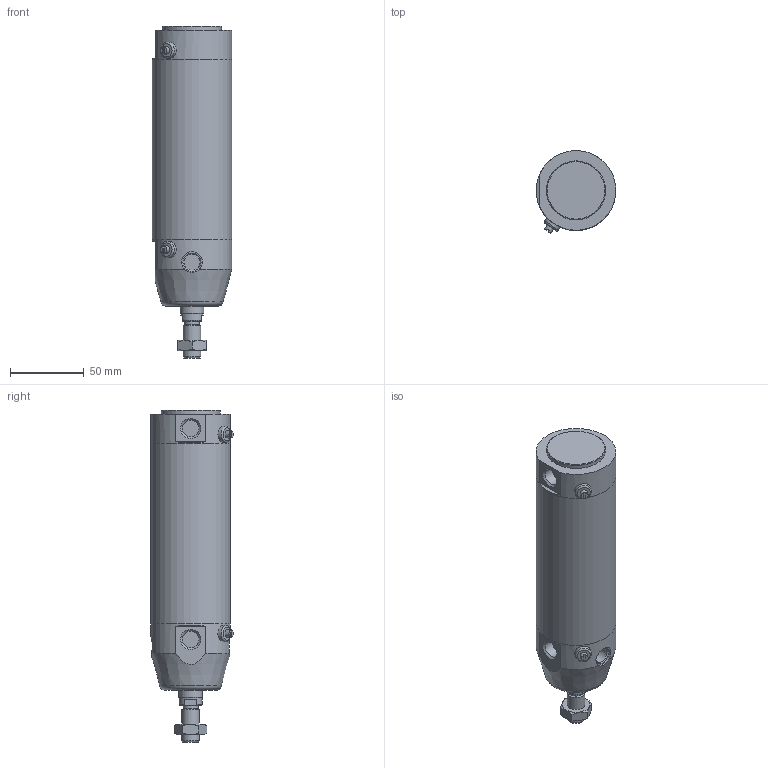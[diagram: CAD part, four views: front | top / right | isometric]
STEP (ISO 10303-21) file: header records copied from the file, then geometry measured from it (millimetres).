
FILE_DESCRIPTION(/* description */ (''),/* implementation_level */ '2;1');
FILE_NAME(/* name */ 'I:\Area Tecnica\Documenti\A-Manieri\_Inventor\12X\12X#E_###_####_#_#\12XBE_050_0080_#_#.stp',/* time_stamp */ '2015-05-08T13:57:54+02:00',/* author */ ('maniean1'),/* organization */ ('Pneumax S.p.A.'),/* preprocessor_version */ 'ST-DEVELOPER v15.2',/* originating_system */ 'Autodesk Inventor 2014',/* authorisation */ '');
FILE_SCHEMA (('AUTOMOTIVE_DESIGN { 1 0 10303 214 3 1 1 }'));
Length unit declared in the file: millimetre
Products named in the file (6): C1250_619-0080; 12X50_623; S12X50_0080; 12X_50_11; 12X50_612; 12XBE_050_0080_#_#
Bounding box: 54 x 55.88 x 225 mm (x, y, z)
Volume: 281633.1 mm3; surface area: 82059.9 mm2
Topology: 5 solids, 5 shells, 83 faces, 174 edges, 112 vertices
Faces by surface type: plane 45, cylinder 22, cone 13, torus 3
Full cylindrical faces by diameter (mm): 5 x2, 10.2 x1, 10.9 x2, 11 x2, 11.4 x2, 12 x2, 14 x1, 14.1 x2, 15.6 x1, 16 x1, 40 x1, 50 x2, 54 x3
Entity records: 2203 total; most frequent: CARTESIAN_POINT 508, DIRECTION 359, ORIENTED_EDGE 254, AXIS2_PLACEMENT_3D 161, EDGE_LOOP 136, EDGE_CURVE 127, VERTEX_POINT 101, ADVANCED_FACE 83
